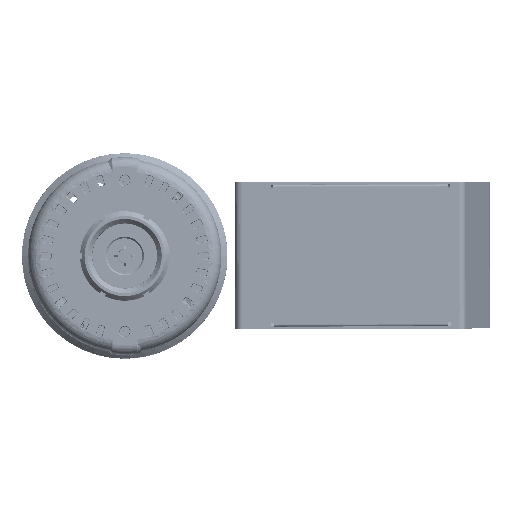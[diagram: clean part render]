
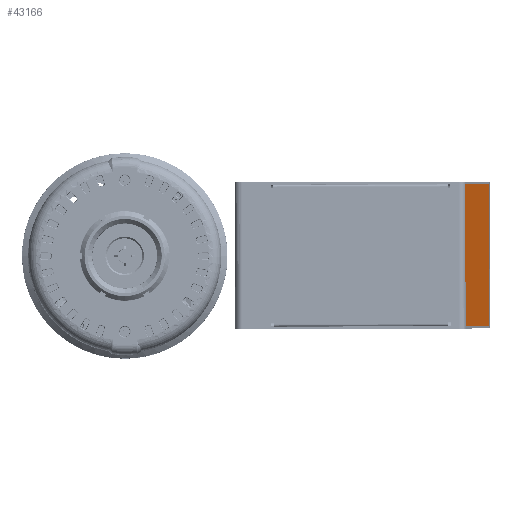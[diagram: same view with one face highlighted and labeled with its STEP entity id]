
A CAD part, front view. The second image highlights one B-rep face of the part: STEP entity #43166.
In plain terms, the highlighted planar face has unit normal (0.94, -0.342, 0.002) as drawn and (-0.94, -0.342, 0) by its records, which use the part's own axes.
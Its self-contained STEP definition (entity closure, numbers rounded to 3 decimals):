
#2700 = VERTEX_POINT ( 'NONE', #49723 ) ;
#7456 = EDGE_CURVE ( 'NONE', #36265, #56801, #116965, .T. ) ;
#14704 = CARTESIAN_POINT ( 'NONE',  ( -65.209, -1.528, -46. ) ) ;
#22011 = CARTESIAN_POINT ( 'NONE',  ( -80.487, 40.448, 46. ) ) ;
#36265 = VERTEX_POINT ( 'NONE', #166373 ) ;
#38347 = DIRECTION ( 'NONE',  ( 0., 0., -1. ) ) ;
#43166 = ADVANCED_FACE ( 'NONE', ( #60400 ), #192976, .F. ) ;
#49723 = CARTESIAN_POINT ( 'NONE',  ( -65.209, -1.528, 46. ) ) ;
#56801 = VERTEX_POINT ( 'NONE', #157690 ) ;
#59197 = DIRECTION ( 'NONE',  ( 0.94, 0.342, 0. ) ) ;
#60400 = FACE_OUTER_BOUND ( 'NONE', #69658, .T. ) ;
#62511 = ORIENTED_EDGE ( 'NONE', *, *, #217997, .F. ) ;
#69658 = EDGE_LOOP ( 'NONE', ( #129057, #62511, #85547, #115272 ) ) ;
#76233 = VECTOR ( 'NONE', #137532, 1000. ) ;
#76367 = CARTESIAN_POINT ( 'NONE',  ( -65.209, -1.528, 46. ) ) ;
#85029 = LINE ( 'NONE', #198953, #76233 ) ;
#85547 = ORIENTED_EDGE ( 'NONE', *, *, #210973, .F. ) ;
#102129 = VECTOR ( 'NONE', #148945, 1000. ) ;
#114205 = DIRECTION ( 'NONE',  ( -0.342, 0.94, 0. ) ) ;
#115272 = ORIENTED_EDGE ( 'NONE', *, *, #7456, .T. ) ;
#116965 = LINE ( 'NONE', #22011, #206887 ) ;
#129057 = ORIENTED_EDGE ( 'NONE', *, *, #216332, .T. ) ;
#131320 = CARTESIAN_POINT ( 'NONE',  ( -65.209, -1.528, -46. ) ) ;
#132558 = LINE ( 'NONE', #131320, #187490 ) ;
#137532 = DIRECTION ( 'NONE',  ( 0., 0., -1. ) ) ;
#137886 = VERTEX_POINT ( 'NONE', #14704 ) ;
#148945 = DIRECTION ( 'NONE',  ( 0.342, -0.94, 0. ) ) ;
#153888 = DIRECTION ( 'NONE',  ( 0.342, -0.94, 0. ) ) ;
#157690 = CARTESIAN_POINT ( 'NONE',  ( -80.487, 40.448, -46. ) ) ;
#166373 = CARTESIAN_POINT ( 'NONE',  ( -80.487, 40.448, 46. ) ) ;
#167758 = LINE ( 'NONE', #76367, #102129 ) ;
#175364 = AXIS2_PLACEMENT_3D ( 'NONE', #213029, #59197, #114205 ) ;
#187490 = VECTOR ( 'NONE', #153888, 1000. ) ;
#192976 = PLANE ( 'NONE',  #175364 ) ;
#198953 = CARTESIAN_POINT ( 'NONE',  ( -65.209, -1.528, 46. ) ) ;
#206887 = VECTOR ( 'NONE', #38347, 1000. ) ;
#210973 = EDGE_CURVE ( 'NONE', #36265, #2700, #167758, .T. ) ;
#213029 = CARTESIAN_POINT ( 'NONE',  ( -65.209, -1.528, 46. ) ) ;
#216332 = EDGE_CURVE ( 'NONE', #56801, #137886, #132558, .T. ) ;
#217997 = EDGE_CURVE ( 'NONE', #2700, #137886, #85029, .T. ) ;
